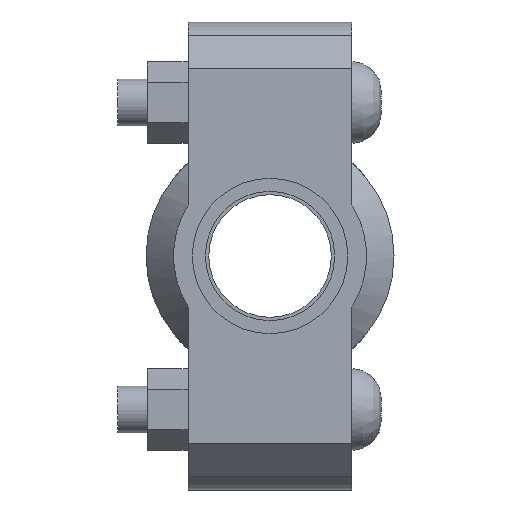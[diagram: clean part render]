
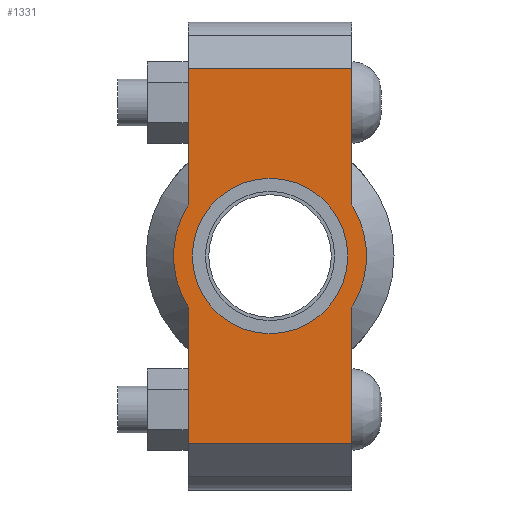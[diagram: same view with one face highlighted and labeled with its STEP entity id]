
A CAD part, left-side view. The second image highlights one B-rep face of the part: STEP entity #1331.
In plain terms, the highlighted planar face has unit normal (-1, 0, 0) as drawn and (0, 0, 1) by its records, which use the part's own axes.
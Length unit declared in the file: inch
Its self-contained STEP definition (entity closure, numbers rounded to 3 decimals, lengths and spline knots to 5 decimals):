
#103=LINE('',#2263,#194);
#118=LINE('',#2322,#209);
#126=LINE('',#2352,#217);
#128=LINE('',#2355,#219);
#129=LINE('',#2360,#220);
#130=LINE('',#2361,#221);
#194=VECTOR('',#1838,0.3937);
#209=VECTOR('',#1873,0.3937);
#217=VECTOR('',#1893,0.3937);
#219=VECTOR('',#1897,0.3937);
#220=VECTOR('',#1902,0.3937);
#221=VECTOR('',#1903,0.3937);
#273=FACE_BOUND('',#420,.T.);
#329=FACE_OUTER_BOUND('',#419,.T.);
#419=EDGE_LOOP('',(#1063,#1064,#1065,#1066,#1067,#1068,#1069,#1070));
#420=EDGE_LOOP('',(#1071));
#478=CIRCLE('',#1504,0.83);
#502=CIRCLE('',#1556,1.031);
#503=CIRCLE('',#1557,1.031);
#550=VERTEX_POINT('',#2089);
#591=VERTEX_POINT('',#2260);
#592=VERTEX_POINT('',#2262);
#613=VERTEX_POINT('',#2317);
#614=VERTEX_POINT('',#2321);
#623=VERTEX_POINT('',#2347);
#624=VERTEX_POINT('',#2351);
#625=VERTEX_POINT('',#2357);
#626=VERTEX_POINT('',#2359);
#684=EDGE_CURVE('',#550,#550,#478,.T.);
#741=EDGE_CURVE('',#592,#591,#103,.T.);
#766=EDGE_CURVE('',#614,#613,#118,.T.);
#779=EDGE_CURVE('',#624,#623,#126,.T.);
#781=EDGE_CURVE('',#624,#591,#128,.T.);
#782=EDGE_CURVE('',#623,#625,#502,.T.);
#783=EDGE_CURVE('',#625,#626,#129,.T.);
#784=EDGE_CURVE('',#614,#626,#130,.T.);
#785=EDGE_CURVE('',#613,#592,#503,.T.);
#1063=ORIENTED_EDGE('',*,*,#781,.F.);
#1064=ORIENTED_EDGE('',*,*,#779,.T.);
#1065=ORIENTED_EDGE('',*,*,#782,.T.);
#1066=ORIENTED_EDGE('',*,*,#783,.T.);
#1067=ORIENTED_EDGE('',*,*,#784,.F.);
#1068=ORIENTED_EDGE('',*,*,#766,.T.);
#1069=ORIENTED_EDGE('',*,*,#785,.T.);
#1070=ORIENTED_EDGE('',*,*,#741,.T.);
#1071=ORIENTED_EDGE('',*,*,#684,.T.);
#1196=PLANE('',#1555);
#1331=ADVANCED_FACE('',(#329,#273),#1196,.T.);
#1504=AXIS2_PLACEMENT_3D('',#2091,#1728,#1729);
#1555=AXIS2_PLACEMENT_3D('',#2356,#1898,#1899);
#1556=AXIS2_PLACEMENT_3D('',#2358,#1900,#1901);
#1557=AXIS2_PLACEMENT_3D('',#2362,#1904,#1905);
#1728=DIRECTION('center_axis',(0.,0.,-1.));
#1729=DIRECTION('ref_axis',(-1.,0.,0.));
#1838=DIRECTION('',(-1.,0.,0.));
#1873=DIRECTION('',(-1.,0.,0.));
#1893=DIRECTION('',(1.,0.,0.));
#1897=DIRECTION('',(0.,1.,0.));
#1898=DIRECTION('center_axis',(0.,0.,1.));
#1899=DIRECTION('ref_axis',(1.,0.,0.));
#1900=DIRECTION('center_axis',(0.,0.,1.));
#1901=DIRECTION('ref_axis',(-1.,0.,0.));
#1902=DIRECTION('',(1.,0.,0.));
#1903=DIRECTION('',(0.,-1.,0.));
#1904=DIRECTION('center_axis',(0.,0.,1.));
#1905=DIRECTION('ref_axis',(-1.,0.,0.));
#2089=CARTESIAN_POINT('',(0.83,0.,0.94));
#2091=CARTESIAN_POINT('Origin',(0.,0.,0.94));
#2260=CARTESIAN_POINT('',(-2.,0.875,0.94));
#2262=CARTESIAN_POINT('',(-0.54529,0.875,0.94));
#2263=CARTESIAN_POINT('',(2.5,0.875,0.94));
#2317=CARTESIAN_POINT('',(0.54529,0.875,0.94));
#2321=CARTESIAN_POINT('',(2.,0.875,0.94));
#2322=CARTESIAN_POINT('',(2.5,0.875,0.94));
#2347=CARTESIAN_POINT('',(-0.54529,-0.875,0.94));
#2351=CARTESIAN_POINT('',(-2.,-0.875,0.94));
#2352=CARTESIAN_POINT('',(-2.5,-0.875,0.94));
#2355=CARTESIAN_POINT('',(-2.,0.4375,0.94));
#2356=CARTESIAN_POINT('Origin',(0.,0.,
0.94));
#2357=CARTESIAN_POINT('',(0.54529,-0.875,0.94));
#2358=CARTESIAN_POINT('Origin',(0.,0.,0.94));
#2359=CARTESIAN_POINT('',(2.,-0.875,0.94));
#2360=CARTESIAN_POINT('',(-2.5,-0.875,0.94));
#2361=CARTESIAN_POINT('',(2.,-0.4375,0.94));
#2362=CARTESIAN_POINT('Origin',(0.,0.,0.94));
